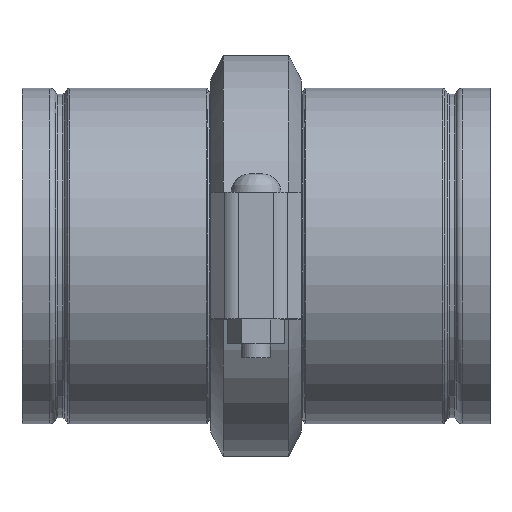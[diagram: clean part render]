
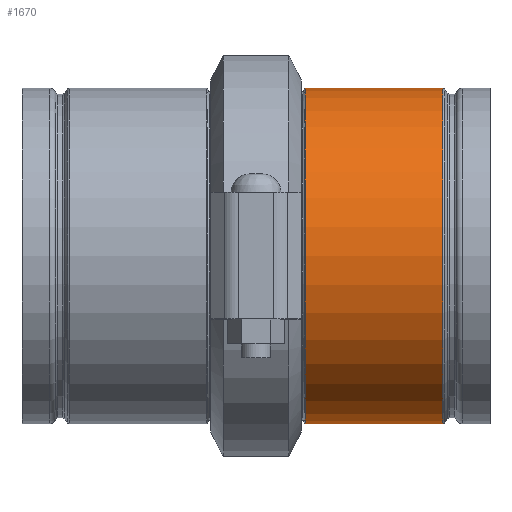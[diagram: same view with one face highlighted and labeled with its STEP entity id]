
A CAD part, top view. The second image highlights one B-rep face of the part: STEP entity #1670.
In plain terms, the highlighted cylindrical face has radius 109.537 mm (diameter 219.075 mm), a full revolution.
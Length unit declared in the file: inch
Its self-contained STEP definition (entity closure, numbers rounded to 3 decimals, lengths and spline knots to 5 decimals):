
#51=LINE('',#2729,#142);
#142=VECTOR('',#2192,4.3125);
#233=CYLINDRICAL_SURFACE('',#1881,4.3125);
#327=FACE_OUTER_BOUND('',#419,.T.);
#419=EDGE_LOOP('',(#1161,#1162,#1163,#1164,#1165,#1166,#1167,#1168));
#552=CIRCLE('',#1877,4.3125);
#553=CIRCLE('',#1878,4.3125);
#555=CIRCLE('',#1880,4.3125);
#556=CIRCLE('',#1882,4.3125);
#557=CIRCLE('',#1883,4.3125);
#558=CIRCLE('',#1884,4.3125);
#689=VERTEX_POINT('',#2716);
#690=VERTEX_POINT('',#2717);
#691=VERTEX_POINT('',#2719);
#692=VERTEX_POINT('',#2724);
#693=VERTEX_POINT('',#2725);
#694=VERTEX_POINT('',#2727);
#872=EDGE_CURVE('',#689,#690,#552,.T.);
#873=EDGE_CURVE('',#690,#691,#553,.T.);
#875=EDGE_CURVE('',#691,#689,#555,.T.);
#876=EDGE_CURVE('',#692,#693,#556,.T.);
#877=EDGE_CURVE('',#694,#692,#557,.T.);
#878=EDGE_CURVE('',#694,#690,#51,.T.);
#879=EDGE_CURVE('',#693,#694,#558,.T.);
#1161=ORIENTED_EDGE('',*,*,#876,.F.);
#1162=ORIENTED_EDGE('',*,*,#877,.F.);
#1163=ORIENTED_EDGE('',*,*,#878,.T.);
#1164=ORIENTED_EDGE('',*,*,#872,.F.);
#1165=ORIENTED_EDGE('',*,*,#875,.F.);
#1166=ORIENTED_EDGE('',*,*,#873,.F.);
#1167=ORIENTED_EDGE('',*,*,#878,.F.);
#1168=ORIENTED_EDGE('',*,*,#879,.F.);
#1670=ADVANCED_FACE('',(#327),#233,.T.);
#1877=AXIS2_PLACEMENT_3D('',#2718,#2178,#2179);
#1878=AXIS2_PLACEMENT_3D('',#2720,#2180,#2181);
#1880=AXIS2_PLACEMENT_3D('',#2722,#2184,#2185);
#1881=AXIS2_PLACEMENT_3D('',#2723,#2186,#2187);
#1882=AXIS2_PLACEMENT_3D('',#2726,#2188,#2189);
#1883=AXIS2_PLACEMENT_3D('',#2728,#2190,#2191);
#1884=AXIS2_PLACEMENT_3D('',#2730,#2193,#2194);
#2178=DIRECTION('center_axis',(-1.,0.,0.));
#2179=DIRECTION('ref_axis',(0.,-1.,0.));
#2180=DIRECTION('center_axis',(-1.,0.,0.));
#2181=DIRECTION('ref_axis',(0.,-1.,0.));
#2184=DIRECTION('center_axis',(-1.,0.,0.));
#2185=DIRECTION('ref_axis',(0.,-1.,0.));
#2186=DIRECTION('center_axis',(1.,0.,0.));
#2187=DIRECTION('ref_axis',(0.,1.,0.));
#2188=DIRECTION('center_axis',(1.,0.,0.));
#2189=DIRECTION('ref_axis',(0.,-1.,0.));
#2190=DIRECTION('center_axis',(1.,0.,0.));
#2191=DIRECTION('ref_axis',(0.,-1.,0.));
#2192=DIRECTION('',(-1.,0.,0.));
#2193=DIRECTION('center_axis',(1.,0.,0.));
#2194=DIRECTION('ref_axis',(0.,-1.,0.));
#2716=CARTESIAN_POINT('',(1.249,4.3125,0.));
#2717=CARTESIAN_POINT('',(1.249,-4.3125,0.));
#2718=CARTESIAN_POINT('Origin',(1.249,0.,0.));
#2719=CARTESIAN_POINT('',(1.249,0.,4.3125));
#2720=CARTESIAN_POINT('Origin',(1.249,0.,0.));
#2722=CARTESIAN_POINT('Origin',(1.249,0.,0.));
#2723=CARTESIAN_POINT('Origin',(3.01773,0.,0.));
#2724=CARTESIAN_POINT('',(4.78523,4.3125,0.));
#2725=CARTESIAN_POINT('',(4.78523,0.,4.3125));
#2726=CARTESIAN_POINT('Origin',(4.78523,0.,0.));
#2727=CARTESIAN_POINT('',(4.78523,-4.3125,0.));
#2728=CARTESIAN_POINT('Origin',(4.78523,0.,0.));
#2729=CARTESIAN_POINT('',(3.01773,-4.3125,0.));
#2730=CARTESIAN_POINT('Origin',(4.78523,0.,0.));
